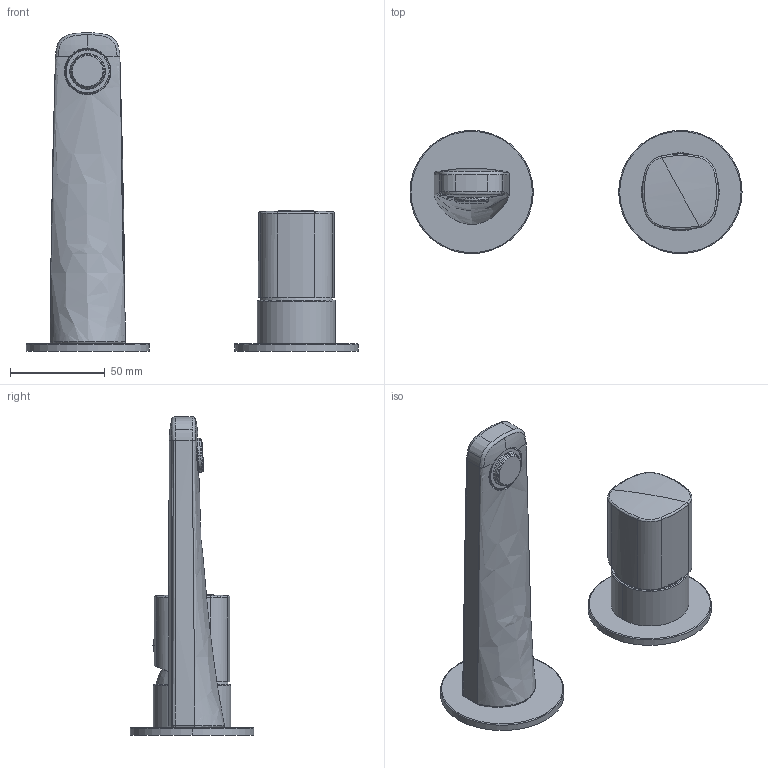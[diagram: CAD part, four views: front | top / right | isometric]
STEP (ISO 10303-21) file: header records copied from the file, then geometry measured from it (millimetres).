
FILE_DESCRIPTION((''),'2;1');
FILE_NAME('24000M009B000000_SW0001_1_ASM','2025-11-10T11:00:14',('ufftecnico'),(''),'CREO PARAMETRIC BY PTC INC, 2025010','CREO PARAMETRIC BY PTC INC, 2025010','');
FILE_SCHEMA(('AUTOMOTIVE_DESIGN { 1 0 10303 214 1 1 1 1 }'));
Length unit declared in the file: millimetre
Products named in the file (4): 24000M009B000000_SW0001_1_1; 24000M009B000000_SW0001_1_2; 24000M009B000000_SW0001_1_3; 24000M009B000000_SW0001_1_ASM
Assembly tree (3 placements, depth 2):
  24000M009B000000_SW0001_1_ASM
    24000M009B000000_SW0001_1_1
    24000M009B000000_SW0001_1_2
    24000M009B000000_SW0001_1_3
Bounding box: 175 x 65 x 167.94 mm (x, y, z)
Volume: 161322.4 mm3; surface area: 55665.5 mm2
Topology: 3 solids, 3 shells, 295 faces, 758 edges, 462 vertices
Faces by surface type: cylinder 97, bspline 89, plane 42, torus 32, cone 25, sphere 8, extrusion 2
Entity records: 25219 total; most frequent: CARTESIAN_POINT 15254, ORIENTED_EDGE 1494, DIRECTION 1187, EDGE_CURVE 747, AXIS2_PLACEMENT_3D 500, VERTEX_POINT 462, B_SPLINE_CURVE_WITH_KNOTS 337, EDGE_LOOP 317
